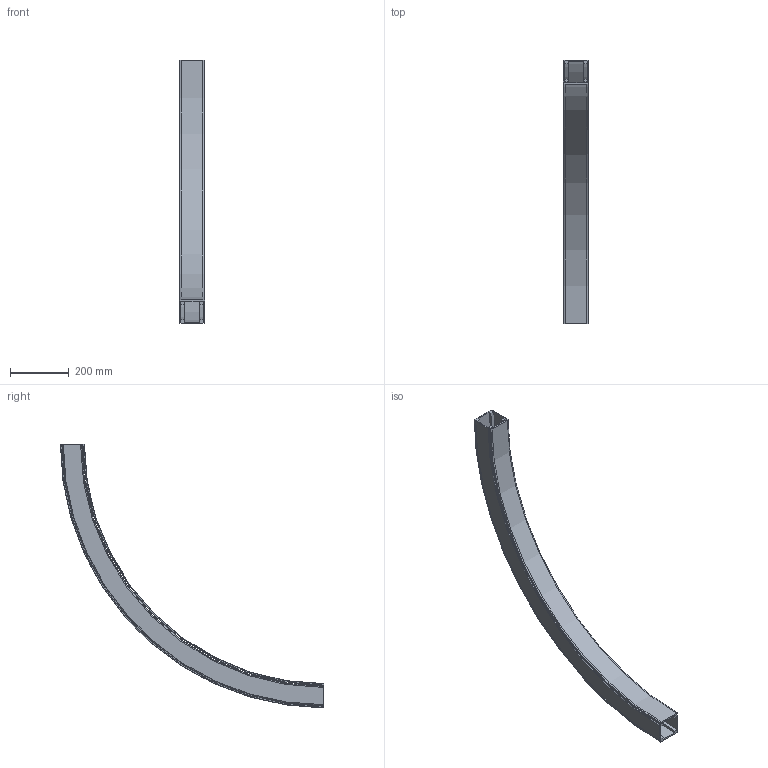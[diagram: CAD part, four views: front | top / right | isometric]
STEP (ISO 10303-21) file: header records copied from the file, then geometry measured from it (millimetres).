
FILE_DESCRIPTION(/* description */ ('VERTIKALKURVA S530 R860'),/* implementation_level */ '2;1');
FILE_NAME(/* name */ '530-5695+830-2000-NER-01.stp',/* time_stamp */ '2022-09-21T07:28:37+02:00',/* author */ ('Mathias.Dore'),/* organization */ ('CARRYLINE'),/* preprocessor_version */ 'ST-DEVELOPER v19.2',/* originating_system */ 'Autodesk Inventor 2023',/* authorisation */ '');
FILE_SCHEMA (('AUTOMOTIVE_DESIGN { 1 0 10303 214 3 1 1 }'));
Length unit declared in the file: millimetre
Products named in the file (1): 530-5695+830-2000-NER-01
Bounding box: 86 x 899.5 x 899.5 mm (x, y, z)
Volume: 2003543.7 mm3; surface area: 970682.6 mm2
Topology: 2 solids, 2 shells, 87 faces, 234 edges, 156 vertices
Faces by surface type: plane 40, cylinder 25, bspline 14, cone 4, torus 4
Entity records: 7351 total; most frequent: CARTESIAN_POINT 5152, ORIENTED_EDGE 468, DIRECTION 408, EDGE_CURVE 234, VERTEX_POINT 156, AXIS2_PLACEMENT_3D 141, LINE 126, VECTOR 126
